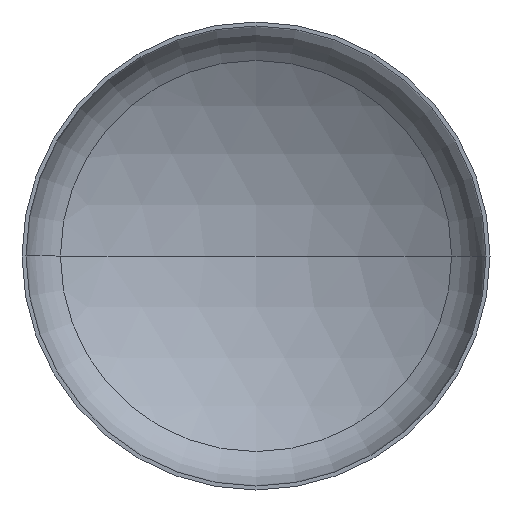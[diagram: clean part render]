
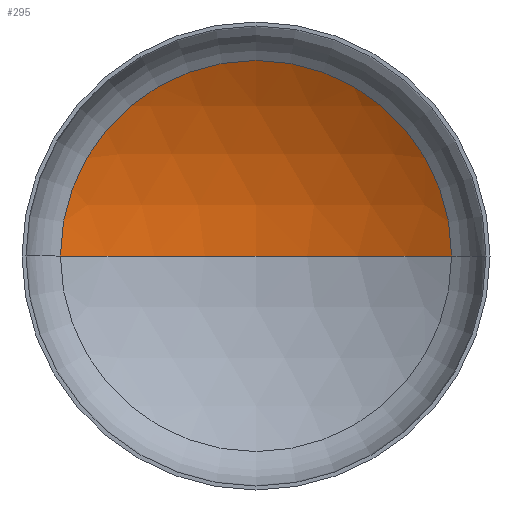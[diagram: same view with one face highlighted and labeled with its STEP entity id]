
A CAD part, front view. The second image highlights one B-rep face of the part: STEP entity #295.
In plain terms, the highlighted spherical face has radius 6000 mm.
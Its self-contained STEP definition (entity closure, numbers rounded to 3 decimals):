
#2 = FACE_OUTER_BOUND ( 'NONE', #64, .T. ) ;
#18 = ORIENTED_EDGE ( 'NONE', *, *, #180, .F. ) ;
#24 = CARTESIAN_POINT ( 'NONE',  ( 0., -4011.351, 0. ) ) ;
#29 = AXIS2_PLACEMENT_3D ( 'NONE', #173, #137, #146 ) ;
#35 = SPHERICAL_SURFACE ( 'NONE', #29, 6000. ) ;
#60 = DIRECTION ( 'NONE',  ( -1., 0., 0. ) ) ;
#64 = EDGE_LOOP ( 'NONE', ( #18, #108, #93 ) ) ;
#71 = VERTEX_POINT ( 'NONE', #269 ) ;
#74 = DIRECTION ( 'NONE',  ( 0., 0., -1. ) ) ;
#86 = VERTEX_POINT ( 'NONE', #274 ) ;
#93 = ORIENTED_EDGE ( 'NONE', *, *, #172, .T. ) ;
#105 = AXIS2_PLACEMENT_3D ( 'NONE', #229, #243, #244 ) ;
#108 = ORIENTED_EDGE ( 'NONE', *, *, #177, .T. ) ;
#114 = VERTEX_POINT ( 'NONE', #262 ) ;
#118 = AXIS2_PLACEMENT_3D ( 'NONE', #24, #74, #60 ) ;
#120 = CIRCLE ( 'NONE', #105, 6000. ) ;
#122 = AXIS2_PLACEMENT_3D ( 'NONE', #376, #265, #232 ) ;
#137 = DIRECTION ( 'NONE',  ( 0., 0., -1. ) ) ;
#146 = DIRECTION ( 'NONE',  ( -1., 0., 0. ) ) ;
#172 = EDGE_CURVE ( 'NONE', #86, #71, #217, .T. ) ;
#173 = CARTESIAN_POINT ( 'NONE',  ( 0., -4011.351, 0. ) ) ;
#177 = EDGE_CURVE ( 'NONE', #114, #86, #281, .T. ) ;
#180 = EDGE_CURVE ( 'NONE', #114, #71, #120, .T. ) ;
#217 = CIRCLE ( 'NONE', #122, 3134.365 ) ;
#229 = CARTESIAN_POINT ( 'NONE',  ( 0., -4011.351, 0. ) ) ;
#232 = DIRECTION ( 'NONE',  ( 1., 0., 0. ) ) ;
#243 = DIRECTION ( 'NONE',  ( 0., 0., 1. ) ) ;
#244 = DIRECTION ( 'NONE',  ( 1., 0., 0. ) ) ;
#262 = CARTESIAN_POINT ( 'NONE',  ( 0., 1988.649, 0. ) ) ;
#265 = DIRECTION ( 'NONE',  ( 0., -1., 0. ) ) ;
#269 = CARTESIAN_POINT ( 'NONE',  ( -3134.365, 1104.873, 0. ) ) ;
#274 = CARTESIAN_POINT ( 'NONE',  ( 3134.365, 1104.873, 0. ) ) ;
#281 = CIRCLE ( 'NONE', #118, 6000. ) ;
#295 = ADVANCED_FACE ( 'NONE', ( #2 ), #35, .F. ) ;
#376 = CARTESIAN_POINT ( 'NONE',  ( 0., 1104.873, 0. ) ) ;
